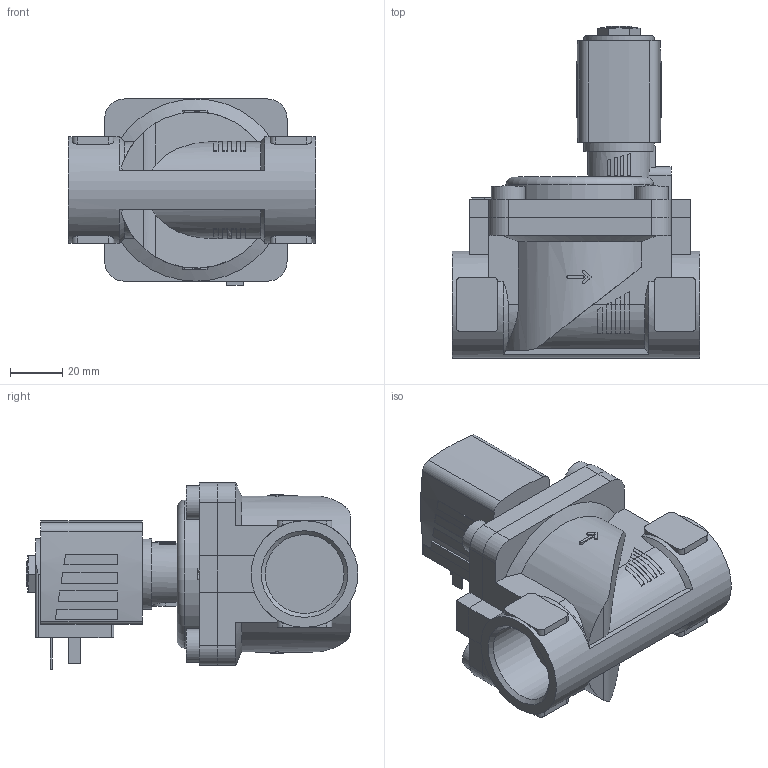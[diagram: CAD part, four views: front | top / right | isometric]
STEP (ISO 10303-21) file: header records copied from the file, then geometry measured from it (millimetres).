
FILE_DESCRIPTION(/* description */ ('STEP AP214'),/* implementation_level */ '2;1');
FILE_NAME(/* name */ '6281-316519-2_2-Way_Solenoid_Valve__Servo-assisted__General_Purpose',/* time_stamp */ '2024-08-27T14:39:52+02:00',/* author */ ('License CC BY-ND 4.0'),/* organization */ ('CADENAS'),/* preprocessor_version */ 'ST-DEVELOPER v19.3',/* originating_system */ 'PARTsolutions',/* authorisation */ ' ');
FILE_SCHEMA (('AUTOMOTIVE_DESIGN {1 0 10303 214 3 1 1}'));
Length unit declared in the file: millimetre
Products named in the file (4): 6281-316519-2/2-Way Solenoid Valve, Servo-assisted, General Purpose; 5281ev250VA2/2-Wege-Magnetventil mit Servomembran-Deckel   ; 6213-25G1VA-Gehaeuse-; AC10ex-5NA38-Plan-Coil
Assembly tree (3 placements, depth 2):
  6281-316519-2/2-Way Solenoid Valve, Servo-assisted, General Purpose
    5281ev250VA2/2-Wege-Magnetventil mit Servomembran-Deckel   
    6213-25G1VA-Gehaeuse-
    AC10ex-5NA38-Plan-Coil
Bounding box: 95 x 127.5 x 71.5 mm (x, y, z)
Volume: 297555.7 mm3; surface area: 54119.6 mm2
Topology: 3 solids, 3 shells, 345 faces, 900 edges, 594 vertices
Faces by surface type: plane 240, cylinder 89, cone 15, torus 1
Full cylindrical faces by diameter (mm): 2.013 x1, 9.74 x1, 13 x4, 27 x1, 30.291 x2, 41 x1
Entity records: 11824 total; most frequent: CARTESIAN_POINT 2086, ORIENTED_EDGE 1752, DIRECTION 1744, EDGE_CURVE 876, AXIS2_PLACEMENT_3D 594, VERTEX_POINT 586, LINE 556, VECTOR 556
